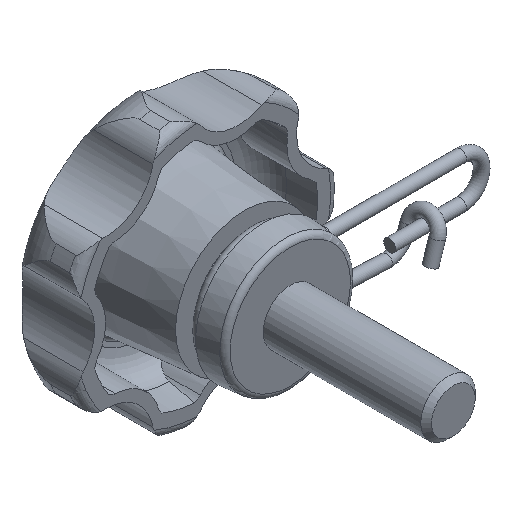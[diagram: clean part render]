
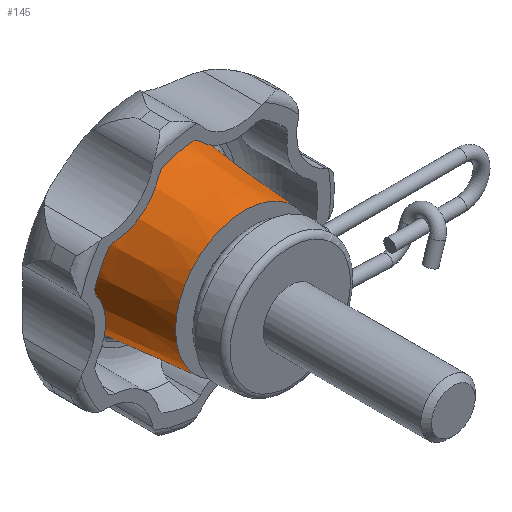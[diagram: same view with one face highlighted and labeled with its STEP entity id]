
A CAD part, isometric view. The second image highlights one B-rep face of the part: STEP entity #145.
In plain terms, the highlighted conical face has half-angle 5 degrees and reference radius 7.093 mm.
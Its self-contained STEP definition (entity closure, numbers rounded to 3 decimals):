
#145 = ADVANCED_FACE( '', ( #335, #336 ), #337, .T. );
#335 = FACE_BOUND( '', #564, .T. );
#336 = FACE_OUTER_BOUND( '', #565, .T. );
#337 = CONICAL_SURFACE( '', #566, 7.093, 0.087 );
#564 = EDGE_LOOP( '', ( #1228 ) );
#565 = EDGE_LOOP( '', ( #1229 ) );
#566 = AXIS2_PLACEMENT_3D( '', #1230, #1231, #1232 );
#1228 = ORIENTED_EDGE( '', *, *, #1630, .F. );
#1229 = ORIENTED_EDGE( '', *, *, #1629, .T. );
#1230 = CARTESIAN_POINT( '', ( 0., 12.517, 0. ) );
#1231 = DIRECTION( '', ( 0., 1., 0. ) );
#1232 = DIRECTION( '', ( 0., 0., 1. ) );
#1629 = EDGE_CURVE( '', #2026, #2026, #2027, .T. );
#1630 = EDGE_CURVE( '', #2028, #2028, #2029, .T. );
#2026 = VERTEX_POINT( '', #3276 );
#2027 = CIRCLE( '', #3277, 7.093 );
#2028 = VERTEX_POINT( '', #3278 );
#2029 = CIRCLE( '', #3279, 6.366 );
#3276 = CARTESIAN_POINT( '', ( 0., 12.517, -7.093 ) );
#3277 = AXIS2_PLACEMENT_3D( '', #3661, #3662, #3663 );
#3278 = CARTESIAN_POINT( '', ( 0., 4.2, -6.366 ) );
#3279 = AXIS2_PLACEMENT_3D( '', #3664, #3665, #3666 );
#3661 = CARTESIAN_POINT( '', ( 0., 12.517, 0. ) );
#3662 = DIRECTION( '', ( 0., -1., 0. ) );
#3663 = DIRECTION( '', ( 0., 0., -1. ) );
#3664 = CARTESIAN_POINT( '', ( 0., 4.2, 0. ) );
#3665 = DIRECTION( '', ( 0., -1., 0. ) );
#3666 = DIRECTION( '', ( 0., 0., -1. ) );
